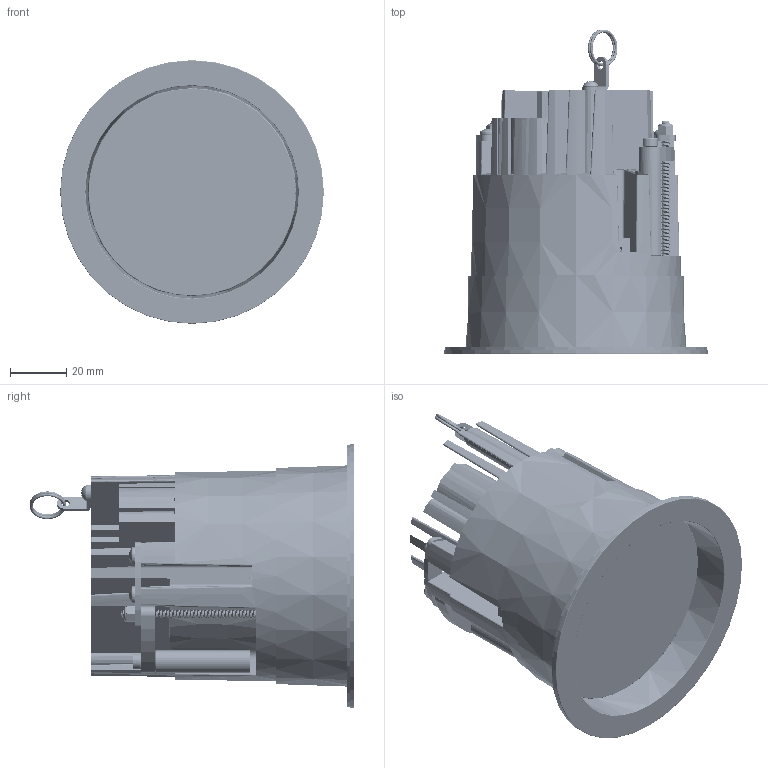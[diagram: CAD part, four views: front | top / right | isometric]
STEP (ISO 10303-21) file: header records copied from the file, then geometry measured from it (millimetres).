
FILE_DESCRIPTION (( 'STEP AP214' ), '1' );
FILE_NAME ('WG-H-PTD3-FA-RBT-RMPO.STEP', '2023-02-17T16:50:50', ( '' ), ( '' ), 'SwSTEP 2.0', 'SolidWorks 2021', '' );
FILE_SCHEMA (( 'AUTOMOTIVE_DESIGN' ));
Length unit declared in the file: inch
Products named in the file (25): 740-10300-400; 310-10030-101_92005A116; WG-CV-PTD3-RMPO-___WG-CV-PTD3-RMPO-WL; 41002 - Push Latch Clip, Small A; 820-10713_Closed; 310-10122-200_310-10122-200; WG-H-PTD3-FA-RBT-RMPO; 311-10016-201; 760-10050-400; 310-10082-200_310-10082-200; 41002 - Push Latch Runner, Small; GDL PLUS heat sink aircraft wire L-bracket; 720-10034-300; Modified round bracket v7; 41002 - Push Latch Body, Small; 750-10100-303; 310-10124-200_310-10124-200; 100 ProTools heat sink aircraft wire loop 2019-09-26; 750-10099-300_34; 323-10009-400; 750-10101-101; 420-20153-400; 340-10027-400_stretch out; 760-10192-400; 610-20705
Assembly tree (37 placements, depth 3):
  WG-H-PTD3-FA-RBT-RMPO
    720-10034-300
    323-10009-400
    750-10099-300_34  x2
    750-10100-303  x2
    750-10101-101  x2
    310-10122-200_310-10122-200  x2
    311-10016-201  x2
    310-10030-101_92005A116  x6
    820-10713_Closed  x3
      41002 - Push Latch Body, Small
      41002 - Push Latch Runner, Small
      41002 - Push Latch Clip, Small A
    310-10124-200_310-10124-200  x2
    740-10300-400
    420-20153-400
    610-20705
    760-10192-400
    100 ProTools heat sink aircraft wire loop 2019-09-26
    GDL PLUS heat sink aircraft wire L-bracket
    310-10082-200_310-10082-200
    WG-CV-PTD3-RMPO-___WG-CV-PTD3-RMPO-WL
      760-10050-400
      340-10027-400_stretch out
      Modified round bracket v7
Bounding box: 94 x 115.69 x 94 mm (x, y, z)
Volume: 132643.9 mm3; surface area: 131028.2 mm2
Topology: 42 solids, 44 shells, 5513 faces, 15542 edges, 10246 vertices
Faces by surface type: cylinder 2239, plane 1887, cone 526, bspline 505, torus 275, sphere 81
Entity records: 163148 total; most frequent: CARTESIAN_POINT 65984, ORIENTED_EDGE 22140, DIRECTION 16386, EDGE_CURVE 11070, VERTEX_POINT 7320, AXIS2_PLACEMENT_3D 5782, VECTOR 4822, LINE 4822
